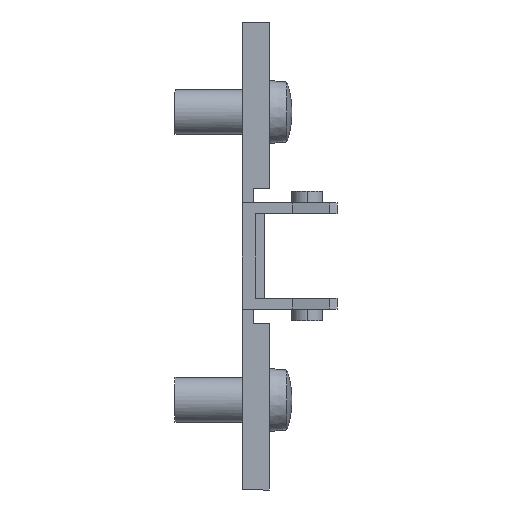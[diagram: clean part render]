
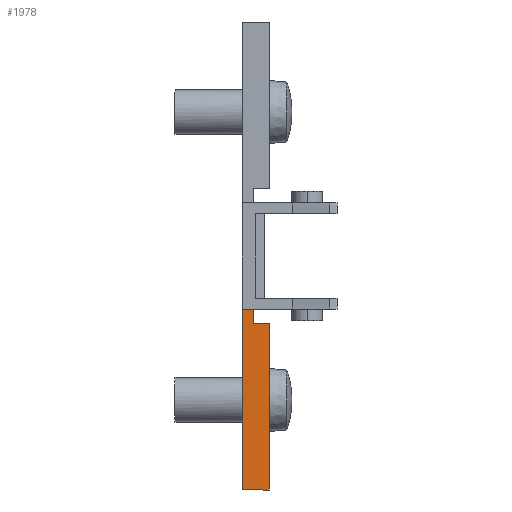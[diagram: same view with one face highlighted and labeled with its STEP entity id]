
A CAD part, front view. The second image highlights one B-rep face of the part: STEP entity #1978.
In plain terms, the highlighted planar face has unit normal (0, -1, 0).
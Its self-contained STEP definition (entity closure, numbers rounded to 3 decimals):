
#110 = VECTOR ( 'NONE', #1355, 1000. ) ;
#111 = LINE ( 'NONE', #1405, #110 ) ;
#242 = VECTOR ( 'NONE', #1462, 1000. ) ;
#243 = LINE ( 'NONE', #1387, #242 ) ;
#290 = CARTESIAN_POINT ( 'NONE',  ( 3., -9., -26. ) ) ;
#339 = CARTESIAN_POINT ( 'NONE',  ( 1.2, -9., -5.9 ) ) ;
#341 = CARTESIAN_POINT ( 'NONE',  ( 1.2, -9., -7.5 ) ) ;
#348 = CARTESIAN_POINT ( 'NONE',  ( 0., -9., -5.9 ) ) ;
#368 = CARTESIAN_POINT ( 'NONE',  ( 3., -9., -7.5 ) ) ;
#423 = CARTESIAN_POINT ( 'NONE',  ( 0., -9., -26. ) ) ;
#521 = VECTOR ( 'NONE', #1518, 1000. ) ;
#522 = LINE ( 'NONE', #1517, #521 ) ;
#569 = VECTOR ( 'NONE', #3396, 1000. ) ;
#570 = LINE ( 'NONE', #2660, #569 ) ;
#621 = EDGE_LOOP ( 'NONE', ( #1212, #1213, #1214, #1207, #1203, #1205 ) ) ;
#1203 = ORIENTED_EDGE ( 'NONE', *, *, #1629, .T. ) ;
#1205 = ORIENTED_EDGE ( 'NONE', *, *, #3435, .T. ) ;
#1207 = ORIENTED_EDGE ( 'NONE', *, *, #3484, .T. ) ;
#1212 = ORIENTED_EDGE ( 'NONE', *, *, #3417, .F. ) ;
#1213 = ORIENTED_EDGE ( 'NONE', *, *, #1821, .T. ) ;
#1214 = ORIENTED_EDGE ( 'NONE', *, *, #1870, .T. ) ;
#1355 = DIRECTION ( 'NONE',  ( 1., 0., 0. ) ) ;
#1387 = CARTESIAN_POINT ( 'NONE',  ( 1.2, -9., -5. ) ) ;
#1405 = CARTESIAN_POINT ( 'NONE',  ( 1.2, -9., -5.9 ) ) ;
#1462 = DIRECTION ( 'NONE',  ( 0., 0., 1. ) ) ;
#1517 = CARTESIAN_POINT ( 'NONE',  ( 3., -9., -7.5 ) ) ;
#1518 = DIRECTION ( 'NONE',  ( 0., 0., 1. ) ) ;
#1629 = EDGE_CURVE ( 'NONE', #2776, #3382, #570, .T. ) ;
#1796 = AXIS2_PLACEMENT_3D ( 'NONE', #2821, #3299, #3304 ) ;
#1821 = EDGE_CURVE ( 'NONE', #3351, #2607, #2421, .T. ) ;
#1870 = EDGE_CURVE ( 'NONE', #2607, #2682, #2276, .T. ) ;
#1978 = ADVANCED_FACE ( 'NONE', ( #2265 ), #2825, .F. ) ;
#2265 = FACE_OUTER_BOUND ( 'NONE', #621, .T. ) ;
#2275 = VECTOR ( 'NONE', #3191, 1000. ) ;
#2276 = LINE ( 'NONE', #3189, #2275 ) ;
#2415 = VECTOR ( 'NONE', #2907, 1000. ) ;
#2421 = LINE ( 'NONE', #2902, #2415 ) ;
#2607 = VERTEX_POINT ( 'NONE', #423 ) ;
#2660 = CARTESIAN_POINT ( 'NONE',  ( 1.2, -9., -7.5 ) ) ;
#2682 = VERTEX_POINT ( 'NONE', #290 ) ;
#2776 = VERTEX_POINT ( 'NONE', #368 ) ;
#2821 = CARTESIAN_POINT ( 'NONE',  ( 1.2, -9., -5. ) ) ;
#2825 = PLANE ( 'NONE',  #1796 ) ;
#2902 = CARTESIAN_POINT ( 'NONE',  ( 0., -9., -26. ) ) ;
#2907 = DIRECTION ( 'NONE',  ( 0., 0., -1. ) ) ;
#3189 = CARTESIAN_POINT ( 'NONE',  ( 3., -9., -26. ) ) ;
#3191 = DIRECTION ( 'NONE',  ( 1., 0., 0. ) ) ;
#3299 = DIRECTION ( 'NONE',  ( 0., 1., 0. ) ) ;
#3304 = DIRECTION ( 'NONE',  ( 0., 0., 1. ) ) ;
#3351 = VERTEX_POINT ( 'NONE', #348 ) ;
#3382 = VERTEX_POINT ( 'NONE', #341 ) ;
#3383 = VERTEX_POINT ( 'NONE', #339 ) ;
#3396 = DIRECTION ( 'NONE',  ( -1., 0., 0. ) ) ;
#3417 = EDGE_CURVE ( 'NONE', #3351, #3383, #111, .T. ) ;
#3435 = EDGE_CURVE ( 'NONE', #3382, #3383, #243, .T. ) ;
#3484 = EDGE_CURVE ( 'NONE', #2682, #2776, #522, .T. ) ;
